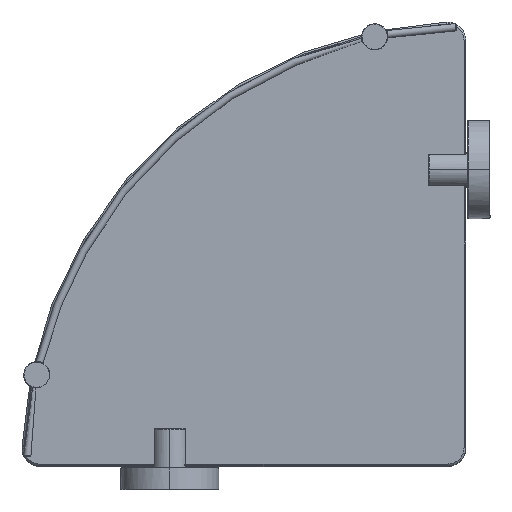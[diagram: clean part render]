
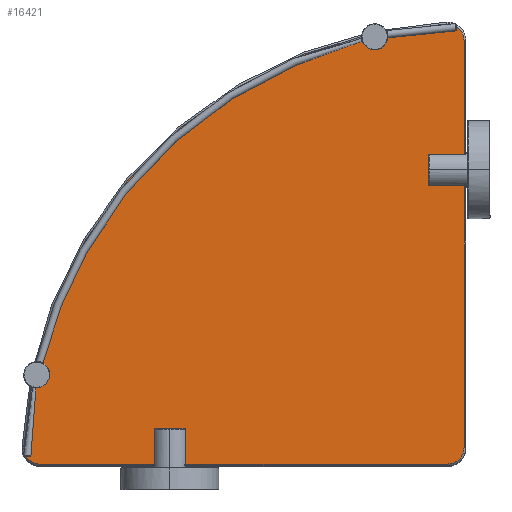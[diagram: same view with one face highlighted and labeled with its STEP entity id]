
A CAD part, top view. The second image highlights one B-rep face of the part: STEP entity #16421.
In plain terms, the highlighted planar face has unit normal (0, 0, 1).
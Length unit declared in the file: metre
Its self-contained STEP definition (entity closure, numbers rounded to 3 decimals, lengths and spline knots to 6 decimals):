
#16421=ADVANCED_FACE('',(#16427),#16422,.F.);
#16422=PLANE('',#16423);
#16423=AXIS2_PLACEMENT_3D('',#16424,#16425,#16426);
#16424=CARTESIAN_POINT('',(0.0,0.0,0.007));
#16425=DIRECTION('',(0.0,0.0,-1.0));
#16426=DIRECTION('',(0.707,-0.707,0.0));
#16427=FACE_OUTER_BOUND('',#16428,.T.);
#16428=EDGE_LOOP('',(#16429,#16441,#16449,#16457,#16466,#16474));
#16429=ORIENTED_EDGE('',*,*,#16430,.T.);
#16430=EDGE_CURVE('',#16431,#16433,#16435,.F.);
#16431=VERTEX_POINT('',#16432);
#16432=CARTESIAN_POINT('',(-0.010391,0.238774,0.007));
#16433=VERTEX_POINT('',#16434);
#16434=CARTESIAN_POINT('',(-0.238774,0.010391,0.007));
#16435=CIRCLE('',#16436,0.239);
#16436=AXIS2_PLACEMENT_3D('',#16437,#16438,#16439);
#16437=CARTESIAN_POINT('',(0.0,0.0,0.007));
#16438=DIRECTION('',(0.0,0.0,-1.0));
#16439=DIRECTION('',(-0.707,-0.707,0.0));
#16440=CARTESIAN_POINT('',(-0.229783,0.001,
  0.007));
#16441=ORIENTED_EDGE('',*,*,#16442,.T.);
#16442=EDGE_CURVE('',#16433,#16443,#16445,.F.);
#16443=VERTEX_POINT('',#16444);
#16444=CARTESIAN_POINT('',(-0.229783,0.001,
  0.007));
#16445=(B_SPLINE_CURVE(3,(#16440,#16446,#16447,#16448),.UNSPECIFIED.,.F.,
  .U.)B_SPLINE_CURVE_WITH_KNOTS((4,4),(0.0,1.0),.UNSPECIFIED.)BOUNDED_CURVE(
  )CURVE()GEOMETRIC_REPRESENTATION_ITEM()RATIONAL_B_SPLINE_CURVE((1.0,
  0.794,0.794,1.0))REPRESENTATION_ITEM(''));
#16446=CARTESIAN_POINT('',(-0.235238,0.001,
  0.007));
#16447=CARTESIAN_POINT('',(-0.239011,0.004941,0.007));
#16448=CARTESIAN_POINT('',(-0.238774,0.010391,0.007));
#16449=ORIENTED_EDGE('',*,*,#16450,.T.);
#16450=EDGE_CURVE('',#16443,#16451,#16453,.T.);
#16451=VERTEX_POINT('',#16452);
#16452=CARTESIAN_POINT('',(-0.01,0.001,0.007));
#16453=LINE('',#16454,#16455);
#16454=CARTESIAN_POINT('',(-0.01,0.001,0.007));
#16455=VECTOR('',#16456,1.0);
#16456=DIRECTION('',(1.0,0.0,0.0));
#16457=ORIENTED_EDGE('',*,*,#16458,.T.);
#16458=EDGE_CURVE('',#16451,#16459,#16461,.F.);
#16459=VERTEX_POINT('',#16460);
#16460=CARTESIAN_POINT('',(-0.001,0.01,0.007));
#16461=CIRCLE('',#16462,0.009);
#16462=AXIS2_PLACEMENT_3D('',#16463,#16464,#16465);
#16463=CARTESIAN_POINT('',(-0.01,0.01,0.007));
#16464=DIRECTION('',(0.0,0.0,-1.0));
#16465=DIRECTION('',(-0.707,-0.707,0.0));
#16466=ORIENTED_EDGE('',*,*,#16467,.T.);
#16467=EDGE_CURVE('',#16459,#16468,#16470,.T.);
#16468=VERTEX_POINT('',#16469);
#16469=CARTESIAN_POINT('',(-0.001,0.229783,
  0.007));
#16470=LINE('',#16471,#16472);
#16471=CARTESIAN_POINT('',(-0.001,0.229783,
  0.007));
#16472=VECTOR('',#16473,1.0);
#16473=DIRECTION('',(0.,1.0,0.0));
#16474=ORIENTED_EDGE('',*,*,#16475,.T.);
#16475=EDGE_CURVE('',#16468,#16431,#16476,.F.);
#16476=CIRCLE('',#16477,0.009);
#16477=AXIS2_PLACEMENT_3D('',#16478,#16479,#16480);
#16478=CARTESIAN_POINT('',(-0.01,0.229783,0.007));
#16479=DIRECTION('',(0.0,0.0,-1.0));
#16480=DIRECTION('',(-0.707,-0.707,0.0));
